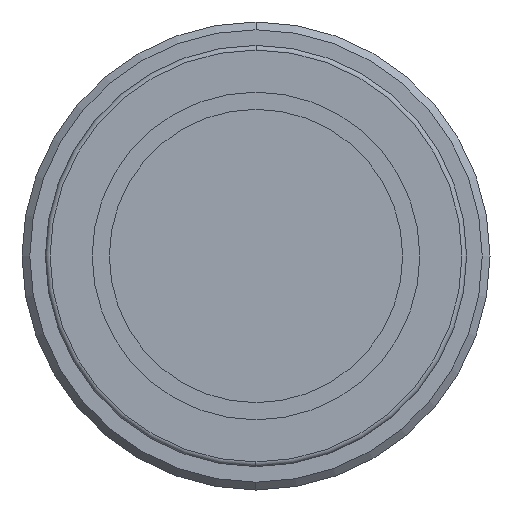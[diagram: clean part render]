
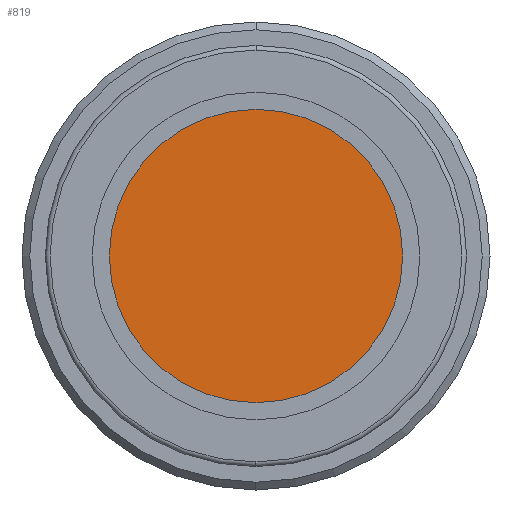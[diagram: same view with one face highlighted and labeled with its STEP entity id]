
A CAD part, left-side view. The second image highlights one B-rep face of the part: STEP entity #819.
In plain terms, the highlighted planar face has unit normal (-1, 0, 0).
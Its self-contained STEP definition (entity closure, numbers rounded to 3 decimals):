
#251=CARTESIAN_POINT('',(50.0,0.0,9.4));
#252=VERTEX_POINT('',#251);
#261=CARTESIAN_POINT('',(50.0,0.,-9.4));
#262=VERTEX_POINT('',#261);
#263=CARTESIAN_POINT('',(50.0,0.0,0.0));
#264=DIRECTION('',(-1.0,0.0,0.0));
#265=DIRECTION('',(0.0,0.0,1.0));
#266=AXIS2_PLACEMENT_3D('',#263,#264,#265);
#267=CIRCLE('',#266,9.4);
#268=EDGE_CURVE('',#262,#252,#267,.T.);
#800=CARTESIAN_POINT('',(50.0,0.0,0.0));
#801=DIRECTION('',(-1.0,0.0,0.0));
#802=DIRECTION('',(0.0,0.0,1.0));
#803=AXIS2_PLACEMENT_3D('',#800,#801,#802);
#804=CIRCLE('',#803,9.4);
#805=EDGE_CURVE('',#252,#262,#804,.T.);
#810=CARTESIAN_POINT('',(50.0,0.0,4.7));
#811=DIRECTION('',(-1.0,0.0,0.0));
#812=DIRECTION('',(0.0,0.0,1.0));
#813=AXIS2_PLACEMENT_3D('',#810,#811,#812);
#814=PLANE('',#813);
#815=ORIENTED_EDGE('',*,*,#805,.T.);
#816=ORIENTED_EDGE('',*,*,#268,.T.);
#817=EDGE_LOOP('',(#815,#816));
#818=FACE_OUTER_BOUND('',#817,.T.);
#819=ADVANCED_FACE('',(#818),#814,.T.);
